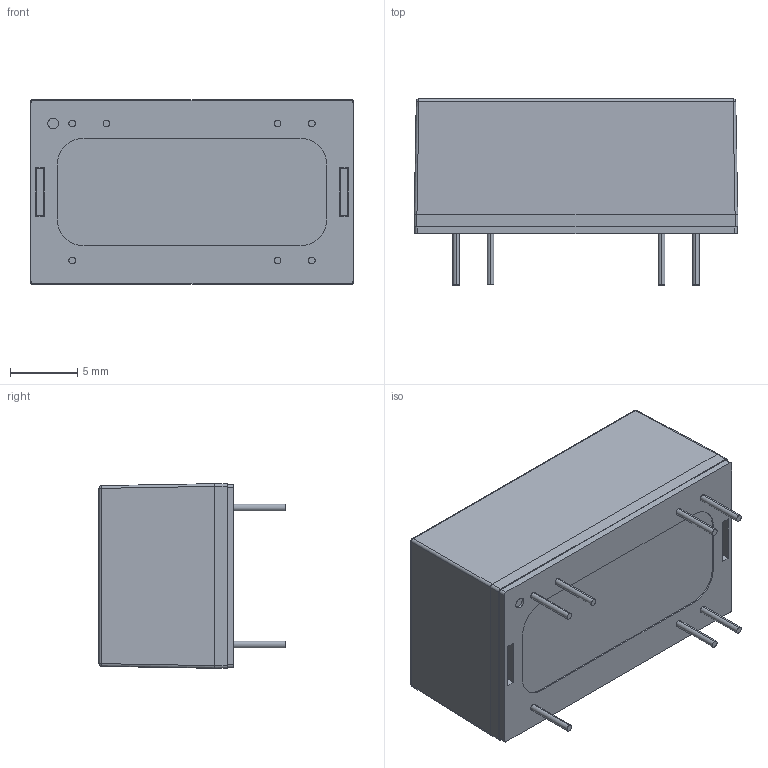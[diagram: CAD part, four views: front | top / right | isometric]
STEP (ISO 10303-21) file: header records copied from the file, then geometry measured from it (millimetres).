
FILE_DESCRIPTION (( 'STEP AP203' ), '1' );
FILE_NAME ('EC5DAW DIP16 2024.11.14.STEP', '2024-11-13T16:16:54', ( '' ), ( '' ), 'SwSTEP 2.0', 'SolidWorks 2020', '' );
FILE_SCHEMA (( 'CONFIG_CONTROL_DESIGN' ));
Length unit declared in the file: millimetre
Products named in the file (1): EC5DAW DIP16 2024.11.14
Bounding box: 24 x 13.8 x 13.7 mm (x, y, z)
Volume: 2500.4 mm3; surface area: 2541.2 mm2
Topology: 1 solids, 4 shells, 163 faces, 360 edges, 232 vertices
Faces by surface type: plane 83, cylinder 76, sphere 4
Entity records: 4573 total; most frequent: DIRECTION 812, CARTESIAN_POINT 792, ORIENTED_EDGE 720, EDGE_CURVE 360, AXIS2_PLACEMENT_3D 300, VERTEX_POINT 232, LINE 212, VECTOR 212
